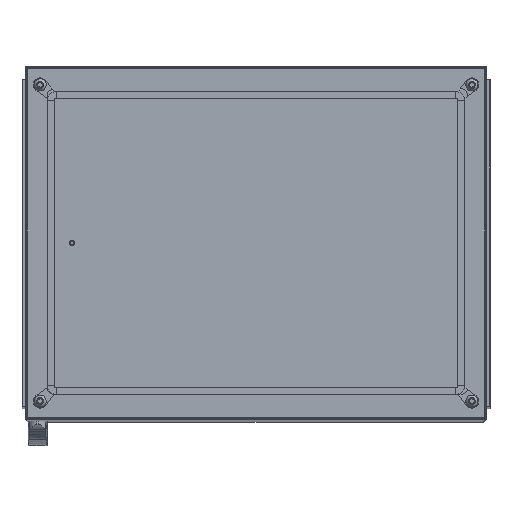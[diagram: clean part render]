
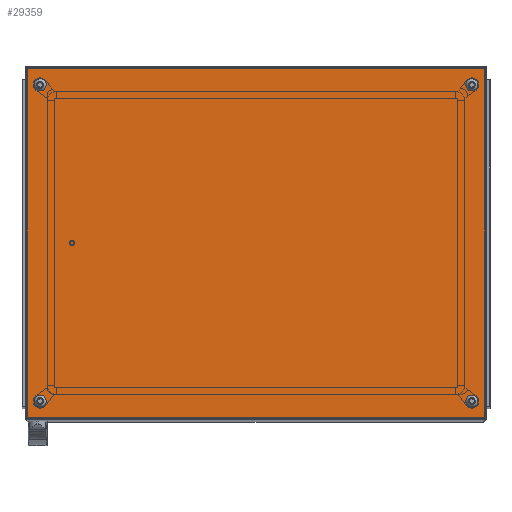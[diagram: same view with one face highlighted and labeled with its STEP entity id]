
A CAD part, top view. The second image highlights one B-rep face of the part: STEP entity #29359.
In plain terms, the highlighted planar face has unit normal (0, 0, 1).
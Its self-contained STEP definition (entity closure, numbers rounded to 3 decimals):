
#1413=CIRCLE('',#31482,6.);
#1414=CIRCLE('',#31483,6.);
#1415=CIRCLE('',#31484,6.);
#1416=CIRCLE('',#31485,6.);
#5321=ORIENTED_EDGE('',*,*,#12411,.F.);
#5322=ORIENTED_EDGE('',*,*,#12412,.F.);
#5323=ORIENTED_EDGE('',*,*,#12413,.F.);
#5324=ORIENTED_EDGE('',*,*,#12414,.F.);
#5325=ORIENTED_EDGE('',*,*,#12400,.T.);
#5326=ORIENTED_EDGE('',*,*,#12408,.T.);
#5327=ORIENTED_EDGE('',*,*,#12371,.F.);
#5328=ORIENTED_EDGE('',*,*,#12415,.F.);
#12371=EDGE_CURVE('',#16151,#16152,#19091,.T.);
#12400=EDGE_CURVE('',#16173,#16172,#19097,.T.);
#12408=EDGE_CURVE('',#16172,#16152,#19102,.T.);
#12411=EDGE_CURVE('',#16174,#16174,#1413,.T.);
#12412=EDGE_CURVE('',#16175,#16175,#1414,.T.);
#12413=EDGE_CURVE('',#16176,#16176,#1415,.T.);
#12414=EDGE_CURVE('',#16177,#16177,#1416,.T.);
#12415=EDGE_CURVE('',#16173,#16151,#19105,.T.);
#16151=VERTEX_POINT('',#45643);
#16152=VERTEX_POINT('',#45645);
#16172=VERTEX_POINT('',#45719);
#16173=VERTEX_POINT('',#45721);
#16174=VERTEX_POINT('',#45738);
#16175=VERTEX_POINT('',#45740);
#16176=VERTEX_POINT('',#45742);
#16177=VERTEX_POINT('',#45744);
#19091=LINE('',#45644,#21632);
#19097=LINE('',#45720,#21638);
#19102=LINE('',#45732,#21643);
#19105=LINE('',#45745,#21646);
#21632=VECTOR('',#36540,1000.);
#21638=VECTOR('',#36594,1000.);
#21643=VECTOR('',#36611,1000.);
#21646=VECTOR('',#36626,1000.);
#23871=EDGE_LOOP('',(#5321));
#23872=EDGE_LOOP('',(#5322));
#23873=EDGE_LOOP('',(#5323));
#23874=EDGE_LOOP('',(#5324));
#23875=EDGE_LOOP('',(#5325,#5326,#5327,#5328));
#26306=FACE_BOUND('',#23871,.T.);
#26307=FACE_BOUND('',#23872,.T.);
#26308=FACE_BOUND('',#23873,.T.);
#26309=FACE_BOUND('',#23874,.T.);
#26310=FACE_BOUND('',#23875,.T.);
#28398=PLANE('',#31481);
#29359=ADVANCED_FACE('',(#26306,#26307,#26308,#26309,#26310),#28398,.T.);
#31481=AXIS2_PLACEMENT_3D('',#45736,#36616,#36617);
#31482=AXIS2_PLACEMENT_3D('',#45737,#36618,#36619);
#31483=AXIS2_PLACEMENT_3D('',#45739,#36620,#36621);
#31484=AXIS2_PLACEMENT_3D('',#45741,#36622,#36623);
#31485=AXIS2_PLACEMENT_3D('',#45743,#36624,#36625);
#36540=DIRECTION('',(-1.,0.,0.));
#36594=DIRECTION('',(-1.,0.,0.));
#36611=DIRECTION('',(0.,-1.,0.));
#36616=DIRECTION('',(0.,0.,1.));
#36617=DIRECTION('',(1.,0.,0.));
#36618=DIRECTION('',(0.,0.,1.));
#36619=DIRECTION('',(1.,0.,0.));
#36620=DIRECTION('',(0.,0.,1.));
#36621=DIRECTION('',(1.,0.,0.));
#36622=DIRECTION('',(0.,0.,1.));
#36623=DIRECTION('',(1.,0.,0.));
#36624=DIRECTION('',(0.,0.,1.));
#36625=DIRECTION('',(1.,0.,0.));
#36626=DIRECTION('',(0.,-1.,0.));
#45643=CARTESIAN_POINT('',(396.5,-302.5,20.));
#45644=CARTESIAN_POINT('',(400.,-302.5,20.));
#45645=CARTESIAN_POINT('',(-396.5,-302.5,20.));
#45719=CARTESIAN_POINT('',(-396.5,302.5,20.));
#45720=CARTESIAN_POINT('',(400.,302.5,20.));
#45721=CARTESIAN_POINT('',(396.5,302.5,20.));
#45732=CARTESIAN_POINT('',(-396.5,305.5,20.));
#45736=CARTESIAN_POINT('',(-396.5,-302.5,20.));
#45737=CARTESIAN_POINT('',(374.5,-274.5,20.));
#45738=CARTESIAN_POINT('',(380.5,-274.5,20.));
#45739=CARTESIAN_POINT('',(-374.5,274.5,20.));
#45740=CARTESIAN_POINT('',(-368.5,274.5,20.));
#45741=CARTESIAN_POINT('',(374.5,274.5,20.));
#45742=CARTESIAN_POINT('',(380.5,274.5,20.));
#45743=CARTESIAN_POINT('',(-374.5,-274.5,20.));
#45744=CARTESIAN_POINT('',(-368.5,-274.5,20.));
#45745=CARTESIAN_POINT('',(396.5,305.5,20.));
